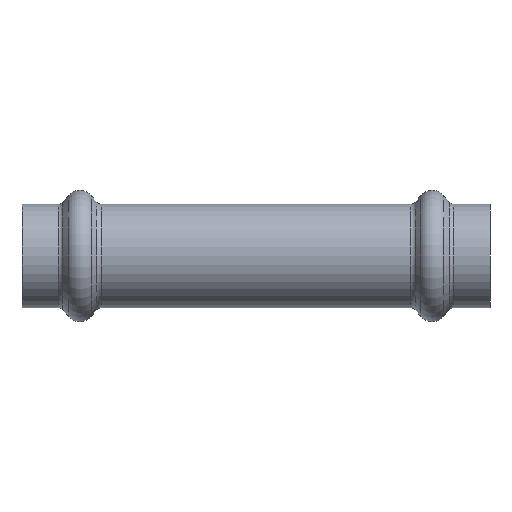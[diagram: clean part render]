
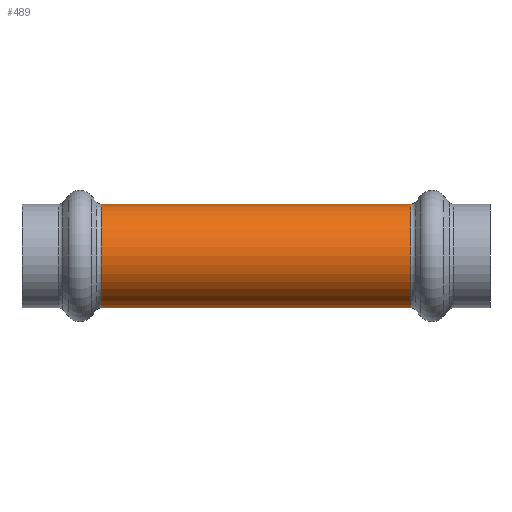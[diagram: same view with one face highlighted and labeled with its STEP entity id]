
A CAD part, front view. The second image highlights one B-rep face of the part: STEP entity #489.
In plain terms, the highlighted cylindrical face has radius 8.95 mm (diameter 17.9 mm), a partial arc.
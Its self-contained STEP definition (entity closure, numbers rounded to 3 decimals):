
#41 = CARTESIAN_POINT ( 'NONE',  ( -26.807, 0., 8.95 ) ) ;
#110 = CARTESIAN_POINT ( 'NONE',  ( -26.807, 0., -8.95 ) ) ;
#117 = FACE_OUTER_BOUND ( 'NONE', #187, .T. ) ;
#130 = DIRECTION ( 'NONE',  ( -1., 0., 0. ) ) ;
#135 = VERTEX_POINT ( 'NONE', #41 ) ;
#160 = VERTEX_POINT ( 'NONE', #110 ) ;
#169 = CARTESIAN_POINT ( 'NONE',  ( 26.807, 0., -8.95 ) ) ;
#187 = EDGE_LOOP ( 'NONE', ( #1000, #787, #1088, #1025 ) ) ;
#231 = DIRECTION ( 'NONE',  ( 0., 0., 1. ) ) ;
#252 = VERTEX_POINT ( 'NONE', #347 ) ;
#259 = CARTESIAN_POINT ( 'NONE',  ( -55.033, 0., 0. ) ) ;
#300 = CARTESIAN_POINT ( 'NONE',  ( -55.033, 0., 8.95 ) ) ;
#347 = CARTESIAN_POINT ( 'NONE',  ( 26.807, 0., 8.95 ) ) ;
#352 = CYLINDRICAL_SURFACE ( 'NONE', #967, 8.95 ) ;
#411 = EDGE_CURVE ( 'NONE', #135, #160, #556, .T. ) ;
#489 = ADVANCED_FACE ( 'NONE', ( #117 ), #352, .T. ) ;
#510 = AXIS2_PLACEMENT_3D ( 'NONE', #563, #554, #551 ) ;
#513 = CARTESIAN_POINT ( 'NONE',  ( -55.033, 0., -8.95 ) ) ;
#551 = DIRECTION ( 'NONE',  ( 0., 0., -1. ) ) ;
#554 = DIRECTION ( 'NONE',  ( -1., 0., 0. ) ) ;
#556 = CIRCLE ( 'NONE', #826, 8.95 ) ;
#563 = CARTESIAN_POINT ( 'NONE',  ( 26.807, 0., 0. ) ) ;
#687 = EDGE_CURVE ( 'NONE', #252, #135, #1238, .T. ) ;
#691 = VERTEX_POINT ( 'NONE', #169 ) ;
#705 = CIRCLE ( 'NONE', #510, 8.95 ) ;
#717 = EDGE_CURVE ( 'NONE', #691, #160, #905, .T. ) ;
#731 = EDGE_CURVE ( 'NONE', #691, #252, #705, .T. ) ;
#787 = ORIENTED_EDGE ( 'NONE', *, *, #731, .T. ) ;
#826 = AXIS2_PLACEMENT_3D ( 'NONE', #867, #876, #886 ) ;
#867 = CARTESIAN_POINT ( 'NONE',  ( -26.807, 0., 0. ) ) ;
#876 = DIRECTION ( 'NONE',  ( 1., 0., 0. ) ) ;
#886 = DIRECTION ( 'NONE',  ( 0., 0., 1. ) ) ;
#905 = LINE ( 'NONE', #513, #927 ) ;
#918 = DIRECTION ( 'NONE',  ( -1., 0., 0. ) ) ;
#927 = VECTOR ( 'NONE', #1165, 1000. ) ;
#967 = AXIS2_PLACEMENT_3D ( 'NONE', #259, #130, #231 ) ;
#1000 = ORIENTED_EDGE ( 'NONE', *, *, #717, .F. ) ;
#1025 = ORIENTED_EDGE ( 'NONE', *, *, #411, .T. ) ;
#1088 = ORIENTED_EDGE ( 'NONE', *, *, #687, .T. ) ;
#1165 = DIRECTION ( 'NONE',  ( -1., 0., 0. ) ) ;
#1166 = VECTOR ( 'NONE', #918, 1000. ) ;
#1238 = LINE ( 'NONE', #300, #1166 ) ;
